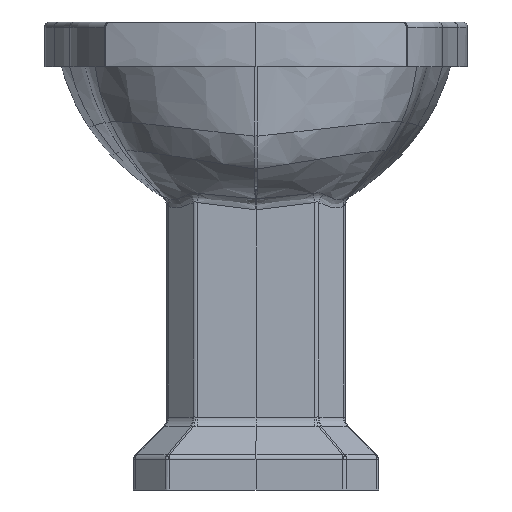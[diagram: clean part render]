
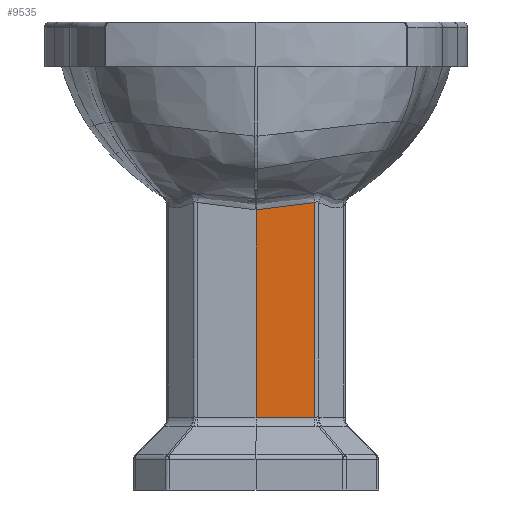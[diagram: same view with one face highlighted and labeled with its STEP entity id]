
A CAD part, left-side view. The second image highlights one B-rep face of the part: STEP entity #9535.
In plain terms, the highlighted planar face has unit normal (-1, 0, 0).
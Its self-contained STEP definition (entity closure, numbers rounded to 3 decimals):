
#9515=AXIS2_PLACEMENT_3D('Plane Axis2P3D',#9512,#9513,#9514) ;
#8733=CARTESIAN_POINT('Vertex',(150.,-52.929,-162.008)) ;
#8930=CARTESIAN_POINT('Vertex',(150.,0.,-168.607)) ;
#8934=CARTESIAN_POINT('Control Point',(150.,0.,-168.607)) ;
#8935=CARTESIAN_POINT('Control Point',(150.,-0.042,-168.604)) ;
#8936=CARTESIAN_POINT('Control Point',(150.,-0.084,-168.601)) ;
#8937=CARTESIAN_POINT('Control Point',(150.,-0.126,-168.597)) ;
#8938=CARTESIAN_POINT('Control Point',(150.,-0.523,-168.567)) ;
#8939=CARTESIAN_POINT('Control Point',(150.,-0.92,-168.536)) ;
#8940=CARTESIAN_POINT('Control Point',(150.,-1.275,-168.509)) ;
#8941=CARTESIAN_POINT('Control Point',(150.,-2.695,-168.398)) ;
#8942=CARTESIAN_POINT('Control Point',(150.,-4.111,-168.286)) ;
#8943=CARTESIAN_POINT('Control Point',(150.,-5.176,-168.201)) ;
#8944=CARTESIAN_POINT('Control Point',(150.,-8.614,-167.923)) ;
#8945=CARTESIAN_POINT('Control Point',(150.,-12.133,-167.63)) ;
#8946=CARTESIAN_POINT('Control Point',(150.,-14.624,-167.418)) ;
#8947=CARTESIAN_POINT('Control Point',(150.,-18.369,-167.087)) ;
#8948=CARTESIAN_POINT('Control Point',(150.,-22.273,-166.714)) ;
#8949=CARTESIAN_POINT('Control Point',(150.,-23.525,-166.591)) ;
#8950=CARTESIAN_POINT('Control Point',(150.,-27.993,-166.137)) ;
#8951=CARTESIAN_POINT('Control Point',(150.,-32.655,-165.603)) ;
#8952=CARTESIAN_POINT('Control Point',(150.,-36.083,-165.165)) ;
#8953=CARTESIAN_POINT('Control Point',(150.,-41.465,-164.376)) ;
#8954=CARTESIAN_POINT('Control Point',(150.,-47.018,-163.335)) ;
#8955=CARTESIAN_POINT('Control Point',(150.,-48.972,-162.936)) ;
#8956=CARTESIAN_POINT('Control Point',(150.,-50.943,-162.496)) ;
#8957=CARTESIAN_POINT('Control Point',(150.,-52.929,-162.008)) ;
#9478=CARTESIAN_POINT('Vertex',(150.,-52.929,-355.)) ;
#9498=CARTESIAN_POINT('Line Origine',(150.,-52.929,-258.089)) ;
#9512=CARTESIAN_POINT('Axis2P3D Location',(150.,-55.,0.)) ;
#9517=CARTESIAN_POINT('Line Origine',(150.,0.,-261.803)) ;
#9521=CARTESIAN_POINT('Vertex',(150.,0.,-355.)) ;
#9524=CARTESIAN_POINT('Line Origine',(150.,-26.464,-355.)) ;
#9499=DIRECTION('Vector Direction',(0.,0.,1.)) ;
#9513=DIRECTION('Axis2P3D Direction',(-1.,0.,0.)) ;
#9514=DIRECTION('Axis2P3D XDirection',(0.,1.,0.)) ;
#9518=DIRECTION('Vector Direction',(0.,0.,1.)) ;
#9525=DIRECTION('Vector Direction',(0.,1.,0.)) ;
#9500=VECTOR('Line Direction',#9499,1.) ;
#9519=VECTOR('Line Direction',#9518,1.) ;
#9526=VECTOR('Line Direction',#9525,1.) ;
#9530=ORIENTED_EDGE('',*,*,#9502,.F.) ;
#9531=ORIENTED_EDGE('',*,*,#8958,.T.) ;
#9532=ORIENTED_EDGE('',*,*,#9523,.F.) ;
#9533=ORIENTED_EDGE('',*,*,#9528,.T.) ;
#9535=ADVANCED_FACE('Raccordo su spigolo.11',(#9534),#9516,.T.) ;
#8933=B_SPLINE_CURVE_WITH_KNOTS('',5,(#8934,#8935,#8936,#8937,#8938,#8939,#8940,#8941,#8942,#8943,#8944,#8945,#8946,#8947,#8948,#8949,#8950,#8951,#8952,#8953,#8954,#8955,#8956,#8957),.UNSPECIFIED.,.F.,.U.,(6,3,3,3,3,3,3,6),(33.92,34.359,38.083,49.258,73.992,85.43,114.32,129.757),.UNSPECIFIED.) ;
#8958=EDGE_CURVE('',#8734,#8931,#8933,.F.) ;
#9502=EDGE_CURVE('',#8734,#9479,#9501,.F.) ;
#9523=EDGE_CURVE('',#9522,#8931,#9520,.T.) ;
#9528=EDGE_CURVE('',#9522,#9479,#9527,.F.) ;
#9529=EDGE_LOOP('',(#9530,#9531,#9532,#9533)) ;
#9534=FACE_OUTER_BOUND('',#9529,.T.) ;
#9501=LINE('Line',#9498,#9500) ;
#9520=LINE('Line',#9517,#9519) ;
#9527=LINE('Line',#9524,#9526) ;
#9516=PLANE('Plane',#9515) ;
#8734=VERTEX_POINT('',#8733) ;
#8931=VERTEX_POINT('',#8930) ;
#9479=VERTEX_POINT('',#9478) ;
#9522=VERTEX_POINT('',#9521) ;
